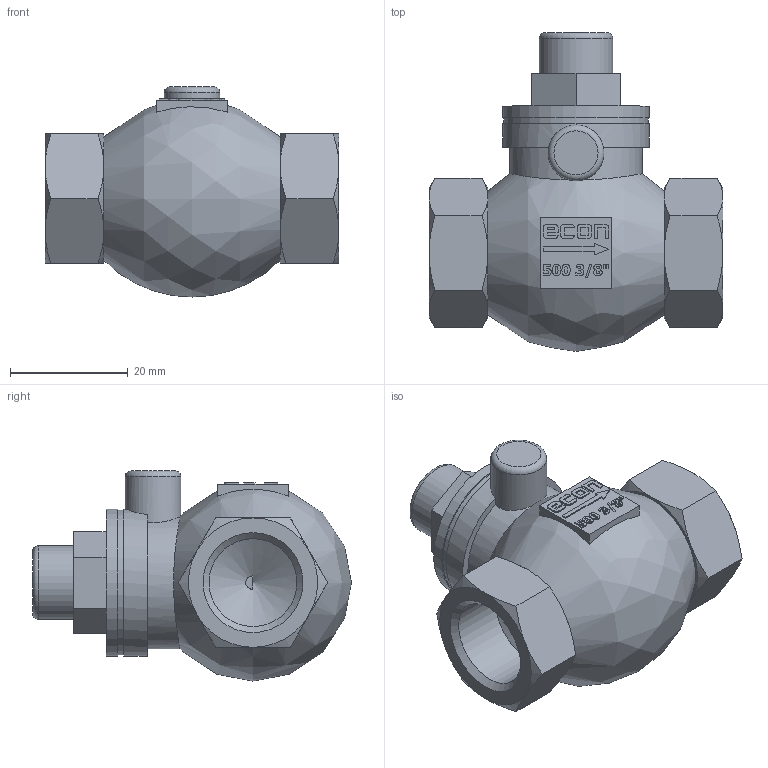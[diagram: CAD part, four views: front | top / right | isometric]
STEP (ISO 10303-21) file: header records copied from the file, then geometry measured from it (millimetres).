
FILE_DESCRIPTION(/* description */ ('Eriks item no: 11811323'),/* implementation_level */ '2;1');
FILE_NAME(/* name */ 'L:\DATA\ENG\Inventor\Econ 3D modellen\terugslagklep\500\500-010-PN16-PTFE.stp',/* time_stamp */ '2023-12-06T15:58:34+01:00',/* author */ ('roger.thijssen'),/* organization */ (''),/* preprocessor_version */ 'ST-DEVELOPER v18',/* originating_system */ 'Autodesk Inventor 2020',/* authorisation */ '');
FILE_SCHEMA (('CONFIG_CONTROL_DESIGN'));
Length unit declared in the file: millimetre
Products named in the file (1): Check valve, 500-010-PN16-PTFE
Bounding box: 50 x 54.25 x 35.75 mm (x, y, z)
Volume: 32420.6 mm3; surface area: 8348.9 mm2
Topology: 1 solids, 1 shells, 262 faces, 681 edges, 448 vertices
Faces by surface type: plane 128, bspline 81, cone 28, cylinder 23, torus 2
Full cylindrical faces by diameter (mm): 9.5 x1, 12.5 x1, 14.95 x2, 24.6 x1, 25 x2
Entity records: 8836 total; most frequent: CARTESIAN_POINT 2979, ORIENTED_EDGE 1358, DIRECTION 917, EDGE_CURVE 679, VERTEX_POINT 448, LINE 367, VECTOR 367, EDGE_LOOP 291
